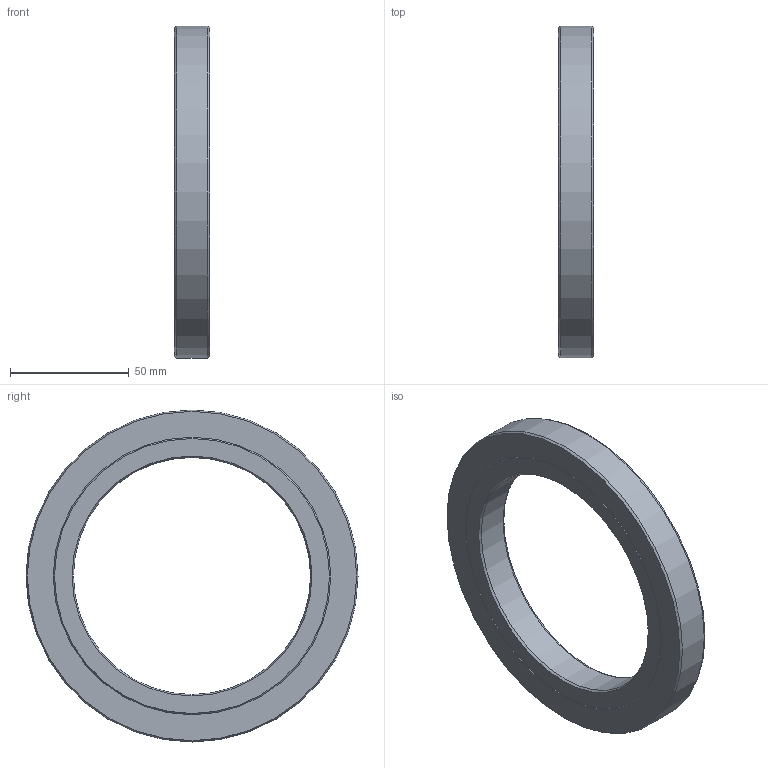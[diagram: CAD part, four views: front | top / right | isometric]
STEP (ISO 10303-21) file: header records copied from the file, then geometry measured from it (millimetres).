
FILE_DESCRIPTION(/* description */ (''),/* implementation_level */ '2;1');
FILE_NAME(/* name */ '301704 S100x140x15.stp',/* time_stamp */ '2016-12-16T14:08:07+01:00',/* author */ (''),/* organization */ (''),/* preprocessor_version */ 'ST-DEVELOPER v15',/* originating_system */ 'SIEMENS PLM Software NX 8.5',/* authorisation */ '');
FILE_SCHEMA (('CONFIG_CONTROL_DESIGN'));
Length unit declared in the file: millimetre
Products named in the file (1): ATE0000143_01
Bounding box: 15 x 140 x 140 mm (x, y, z)
Volume: 109725.2 mm3; surface area: 39961.5 mm2
Topology: 2 solids, 2 shells, 16 faces, 30 edges, 18 vertices
Faces by surface type: cone 10, plane 4, cylinder 2
Full cylindrical faces by diameter (mm): 100 x1, 140 x1
Entity records: 414 total; most frequent: DIRECTION 66, CARTESIAN_POINT 49, AXIS2_PLACEMENT_3D 33, FACE_BOUND 32, EDGE_LOOP 32, ORIENTED_EDGE 32, ADVANCED_FACE 16, VERTEX_POINT 16
